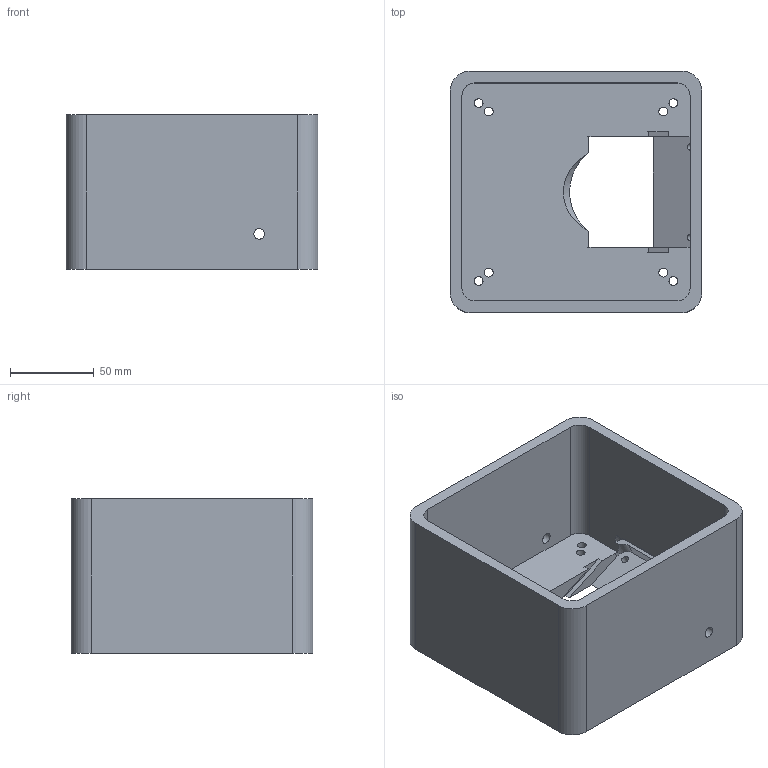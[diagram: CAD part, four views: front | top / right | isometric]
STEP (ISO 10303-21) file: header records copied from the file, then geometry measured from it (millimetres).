
FILE_DESCRIPTION(('Open CASCADE Model'),'2;1');
FILE_NAME('Open CASCADE Shape Model','2026-09-16T16:54:27',('Author'),( 'Open CASCADE'),'Open CASCADE STEP processor 7.8','Open CASCADE 7.8' ,'Unknown');
FILE_SCHEMA(('AUTOMOTIVE_DESIGN { 1 0 10303 214 1 1 1 1 }'));
Length unit declared in the file: millimetre
Products named in the file (1): Open CASCADE STEP translator 7.8 19
Bounding box: 150 x 144 x 92 mm (x, y, z)
Volume: 518571.7 mm3; surface area: 135491.2 mm2
Topology: 1 solids, 1 shells, 64 faces, 174 edges, 116 vertices
Faces by surface type: plane 33, cylinder 31
Full cylindrical faces by diameter (mm): 4.2 x4, 5.2 x8, 6.4 x2
Entity records: 4406 total; most frequent: CARTESIAN_POINT 969, DIRECTION 616, ORIENTED_EDGE 348, PCURVE 348, DEFINITIONAL_REPRESENTATION 348, LINE 296, VECTOR 296, EDGE_CURVE 174
